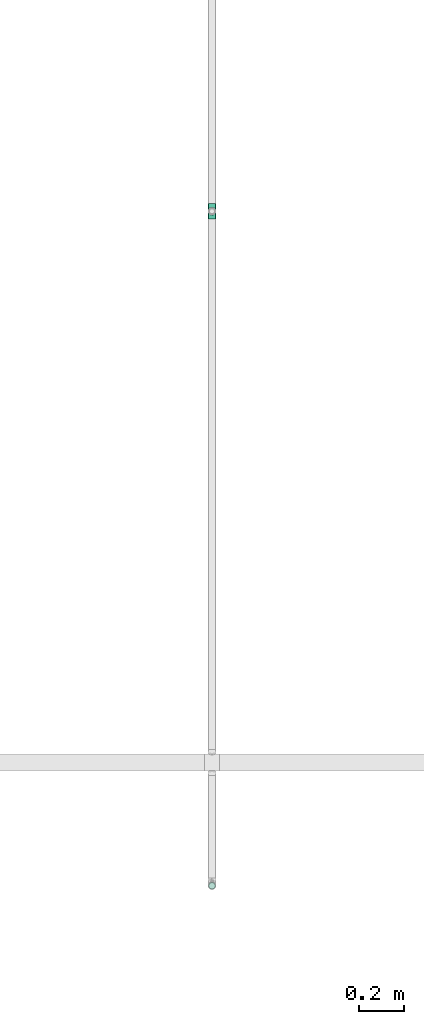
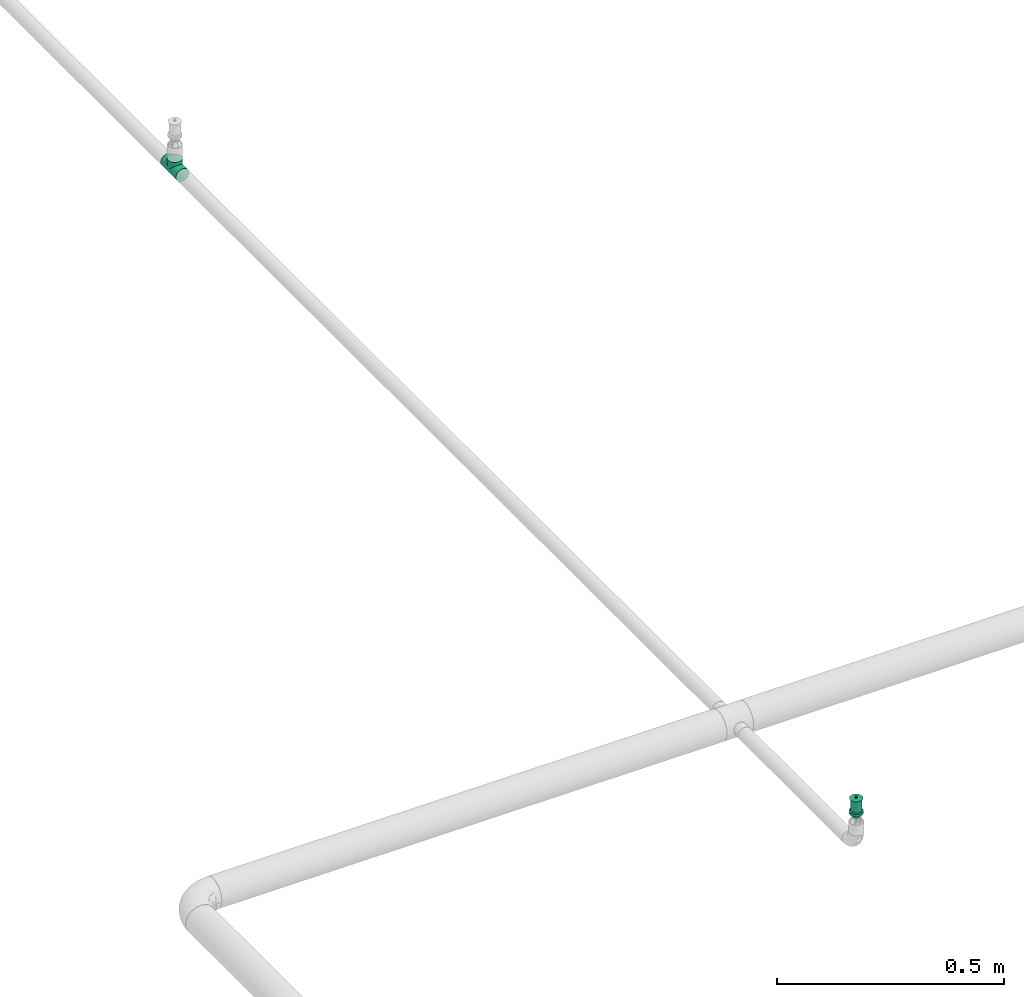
# One storey, part 3 of 31: 1 flow fitting, 1 flow terminal.
"""IFC2X3 building model written with IfcOpenShell, lengths in millimetres."""

from ifc_helpers import new_model, entity, si_unit, converted_unit, derived_unit, direction, frame, origin_with_axes, place, context, subcontext, project, spatial, open_shell, surface_model, source, transform, mapped, type_object, element, save


model = new_model("IFC2X3")

# Units and contexts
model_context = context("Model", 3, precision=0.01, world=frame((0.0, 4.29681676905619e-09, 0.0)), true_north=direction((4.01073788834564e-13, 1.0)))
plan_context = context("Plan", 3, precision=0.01, world=frame((0.0, 4.29681676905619e-09, 0.0)), true_north=direction((4.01073788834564e-13, 1.0)))
body_context = subcontext(model_context, "Body", "Model", "MODEL_VIEW")
ifc_project = project(units=[converted_unit("PLANEANGLEUNIT", "DEGREE", entity("IfcPositiveLengthMeasure", 0.0174532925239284), si_unit("PLANEANGLEUNIT", "RADIAN"), dimensions=[0, 0, 0, 0, 0, 0, 0]), si_unit("AREAUNIT", "SQUARE_METRE"), si_unit("LENGTHUNIT", "METRE", prefix="MILLI"), si_unit("MASSUNIT", "GRAM", prefix="KILO"), si_unit("POWERUNIT", "WATT"), si_unit("PRESSUREUNIT", "PASCAL", prefix="KILO"), si_unit("FORCEUNIT", "NEWTON", prefix="KILO"), si_unit("ELECTRICVOLTAGEUNIT", "VOLT"), si_unit("ELECTRICCURRENTUNIT", "AMPERE"), si_unit("THERMODYNAMICTEMPERATUREUNIT", "DEGREE_CELSIUS"), si_unit("TIMEUNIT", "SECOND"), si_unit("VOLUMEUNIT", "CUBIC_METRE"), derived_unit("LINEARVELOCITYUNIT", [(si_unit("LENGTHUNIT", "METRE"), 1), (si_unit("TIMEUNIT", "SECOND"), -1)]), derived_unit("VOLUMETRICFLOWRATEUNIT", [(si_unit("VOLUMEUNIT", "CUBIC_METRE"), 1), (si_unit("TIMEUNIT", "SECOND"), -1)]), derived_unit("THERMALTRANSMITTANCEUNIT", [(si_unit("POWERUNIT", "WATT"), 1), (si_unit("THERMODYNAMICTEMPERATUREUNIT", "KELVIN"), -1), (si_unit("AREAUNIT", "SQUARE_METRE"), -1)]), derived_unit("SOUNDPRESSUREUNIT", [(si_unit("PRESSUREUNIT", "PASCAL"), 1)])], contexts=[model_context, plan_context])

# Site, building, storey
site_placement = place(None, frame((0.0, -4.29681676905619e-09, 0.0), z_axis=(0.0, 0.0, 1.0), x_axis=(1.0, 0.0, 0.0)))
site = spatial("IfcSite", under=ifc_project, at=site_placement, CompositionType="ELEMENT")
building_placement = place(site_placement, frame((0.0, 4.29681676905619e-09, 0.0), z_axis=(0.0, 0.0, 1.0), x_axis=(1.0, 0.0, 0.0)))
building = spatial("IfcBuilding", under=site, at=building_placement, Name="mc-building", CompositionType="ELEMENT")
storey_placement = place(building_placement, frame((0.0, 0.0, 200300.0), z_axis=(0.0, 0.0, 1.0), x_axis=(1.0, 0.0, 0.0)))
storey = spatial("IfcBuildingStorey", under=building, at=storey_placement, Name="Nivå C", CompositionType="ELEMENT", Elevation=200300.0)

# Flow fitting
pipe_fitting_type = type_object("IfcPipeFittingType", Name="magi_pipe_fe_tee_centric_90_NOR", PredefinedType="JUNCTION")
shared_shape_1 = source(origin_with_axes(), body_context, "Body", "SurfaceModel", [
    surface_model("IfcShellBasedSurfaceModel", [(-33.8, 4.37404, -16.32415), (-33.8, 0.0, -16.9), (-33.8, 16.32415, -4.37404), (-33.8, 8.45, -14.63583), (-33.8, 11.9501, -11.9501), (-33.8, 14.63583, -8.45), (-33.8, -16.9, 0.0), (-33.8, -11.9501, -11.9501), (-33.8, -14.63583, -8.45), (-33.8, -8.45, -14.63583), (-33.8, -4.37404, -16.32415), (-33.8, -16.32415, -4.37404), (-33.8, 14.63583, 8.45), (-33.8, 16.32415, 4.37404), (-33.8, -8.45, 14.63583), (-33.8, 8.45, 14.63583), (-33.8, 11.9501, 11.9501), (-33.8, 4.37404, 16.32415), (-33.8, 0.0, 16.9), (-33.8, -11.9501, 11.9501), (-33.8, -14.63583, 8.45), (-33.8, -16.32415, 4.37404), (-33.8, -4.37404, 16.32415), (-33.8, 16.9, 0.0), (33.8, 4.37404, -16.32415), (33.8, -16.9, 0.0), (33.8, 0.0, -16.9), (33.8, 14.63583, -8.45), (33.8, 8.45, -14.63583), (33.8, 16.32415, -4.37404), (33.8, 11.9501, -11.9501), (33.8, -16.32415, 4.37404), (33.8, -8.45, -14.63583), (33.8, -4.37404, -16.32415), (33.8, -11.9501, -11.9501), (33.8, -14.63583, -8.45), (33.8, -16.32415, -4.37404), (33.8, 16.32415, 4.37404), (33.8, 8.45, 14.63583), (33.8, 14.63583, 8.45), (33.8, 11.9501, 11.9501), (33.8, -8.45, 14.63583), (33.8, 4.37404, 16.32415), (33.8, -14.63583, 8.45), (33.8, -11.9501, 11.9501), (33.8, 0.0, 16.9), (33.8, -4.37404, 16.32415), (33.8, 16.9, 0.0), (16.28698, -16.28698, 4.51047), (16.9, -16.9, 0.0), (14.62704, -14.62704, 8.4652), (9.47213, -9.47213, 13.99602), (12.26343, -12.26343, 11.62834), (-16.9, -16.9, 0.0), (-16.28698, -16.28698, 4.51047), (-14.62704, -14.62704, 8.4652), (-12.26343, -12.26343, 11.62834), (-9.47213, -9.47213, 13.99602), (-6.42894, -6.42894, 15.62942), (6.42894, -6.42894, 15.62942), (3.24522, -3.24522, 16.58549), (0.0, 0.0, 16.9), (-3.24522, -3.24522, 16.58549), (3.24522, -3.24522, -16.58549), (0.0, 0.0, -16.9), (-3.24522, -3.24522, -16.58549), (-6.42894, -6.42894, -15.62942), (6.42894, -6.42894, -15.62942), (9.47213, -9.47213, -13.99602), (12.26343, -12.26343, -11.62834), (14.62704, -14.62704, -8.4652), (16.28698, -16.28698, -4.51047), (-9.47213, -9.47213, -13.99602), (-12.26343, -12.26343, -11.62834), (-16.28698, -16.28698, -4.51047), (-14.62704, -14.62704, -8.4652), (4.37404, -25.35, -16.32415), (-16.9, -25.35, 0.0), (0.0, -25.35, -16.9), (14.63583, -25.35, -8.45), (8.45, -25.35, -14.63583), (16.32415, -25.35, -4.37404), (11.9501, -25.35, -11.9501), (-11.9501, -25.35, -11.9501), (-8.45, -25.35, -14.63583), (-4.37404, -25.35, -16.32415), (-14.63583, -25.35, -8.45), (-16.32415, -25.35, -4.37404), (16.9, -25.35, 0.0), (8.45, -25.35, 14.63583), (16.32415, -25.35, 4.37404), (14.63583, -25.35, 8.45), (-8.45, -25.35, 14.63583), (11.9501, -25.35, 11.9501), (4.37404, -25.35, 16.32415), (-16.32415, -25.35, 4.37404), (-11.9501, -25.35, 11.9501), (-14.63583, -25.35, 8.45), (0.0, -25.35, 16.9), (-4.37404, -25.35, 16.32415)], [open_shell([[[0, 1, 2]], [[3, 0, 4]], [[0, 2, 5]], [[4, 0, 5]], [[6, 2, 1]], [[7, 8, 9]], [[1, 10, 9]], [[11, 6, 8]], [[1, 9, 8]], [[1, 8, 6]], [[6, 12, 2]], [[12, 13, 2]], [[14, 12, 6]], [[12, 14, 15]], [[16, 12, 15]], [[17, 15, 18]], [[19, 14, 20]], [[21, 20, 14]], [[22, 18, 14]], [[14, 6, 21]], [[14, 18, 15]], [[23, 2, 13]], [[24, 25, 26]], [[27, 24, 28]], [[27, 29, 24]], [[27, 28, 30]], [[31, 25, 24]], [[26, 32, 33]], [[26, 34, 32]], [[35, 25, 36]], [[35, 34, 26]], [[25, 35, 26]], [[24, 29, 31]], [[29, 37, 38]], [[38, 37, 39]], [[38, 31, 29]], [[38, 39, 40]], [[41, 38, 42]], [[43, 41, 44]], [[41, 43, 31]], [[41, 45, 46]], [[41, 31, 38]], [[42, 45, 41]], [[29, 47, 37]], [[31, 43, 48]], [[25, 31, 49]], [[49, 31, 48]], [[43, 50, 48]], [[44, 41, 51]], [[50, 43, 52]], [[51, 52, 44]], [[52, 43, 44]], [[53, 54, 21]], [[53, 21, 6]], [[21, 54, 20]], [[54, 55, 20]], [[56, 57, 19]], [[19, 20, 56]], [[19, 57, 14]], [[56, 20, 55]], [[14, 57, 58]], [[51, 41, 59]], [[60, 45, 61]], [[59, 46, 60]], [[46, 59, 41]], [[60, 46, 45]], [[61, 45, 42]], [[39, 37, 13]], [[16, 38, 40]], [[12, 40, 39]], [[42, 38, 15]], [[23, 37, 47]], [[62, 61, 18]], [[62, 22, 58]], [[22, 62, 18]], [[58, 22, 14]], [[61, 17, 18]], [[42, 17, 61]], [[15, 17, 42]], [[15, 38, 16]], [[12, 16, 40]], [[13, 12, 39]], [[37, 23, 13]], [[5, 27, 30]], [[23, 47, 29]], [[30, 28, 3]], [[27, 2, 29]], [[26, 33, 63]], [[26, 64, 24]], [[64, 26, 63]], [[28, 24, 0]], [[64, 0, 24]], [[4, 30, 3]], [[2, 27, 5]], [[5, 30, 4]], [[2, 23, 29]], [[65, 66, 10]], [[1, 0, 64]], [[1, 65, 10]], [[66, 9, 10]], [[0, 3, 28]], [[1, 64, 65]], [[63, 33, 67]], [[32, 34, 68]], [[69, 68, 34]], [[35, 70, 69]], [[69, 34, 35]], [[32, 68, 67]], [[36, 25, 49]], [[36, 71, 35]], [[71, 36, 49]], [[35, 71, 70]], [[72, 9, 66]], [[72, 7, 9]], [[7, 72, 73]], [[7, 73, 8]], [[74, 53, 11]], [[75, 74, 8]], [[74, 11, 8]], [[11, 53, 6]], [[75, 8, 73]], [[32, 67, 33]], [[76, 77, 78]], [[79, 76, 80]], [[79, 81, 76]], [[79, 80, 82]], [[77, 76, 81]], [[78, 83, 84]], [[84, 85, 78]], [[86, 77, 87]], [[83, 78, 86]], [[77, 86, 78]], [[81, 88, 77]], [[89, 88, 90]], [[89, 90, 91]], [[92, 77, 89]], [[89, 91, 93]], [[92, 89, 94]], [[95, 96, 97]], [[96, 95, 92]], [[92, 98, 99]], [[95, 77, 92]], [[94, 98, 92]], [[89, 77, 88]], [[77, 95, 53]], [[54, 53, 95]], [[97, 96, 56]], [[96, 92, 57]], [[95, 97, 54]], [[58, 92, 99]], [[55, 54, 97]], [[56, 55, 97]], [[58, 57, 92]], [[98, 61, 62]], [[58, 99, 62]], [[56, 96, 57]], [[62, 99, 98]], [[94, 60, 98]], [[89, 59, 94]], [[91, 90, 48]], [[52, 93, 91]], [[93, 51, 89]], [[49, 90, 88]], [[59, 60, 94]], [[51, 59, 89]], [[49, 48, 90]], [[50, 52, 91]], [[48, 50, 91]], [[51, 93, 52]], [[98, 60, 61]], [[88, 81, 49]], [[71, 49, 81]], [[79, 82, 69]], [[82, 80, 68]], [[81, 79, 71]], [[67, 80, 76]], [[70, 71, 79]], [[69, 70, 79]], [[67, 68, 80]], [[78, 64, 63]], [[67, 76, 63]], [[69, 82, 68]], [[63, 76, 78]], [[85, 65, 78]], [[84, 66, 85]], [[86, 87, 74]], [[86, 73, 83]], [[72, 84, 83]], [[53, 87, 77]], [[66, 65, 85]], [[72, 66, 84]], [[53, 74, 87]], [[75, 73, 86]], [[74, 75, 86]], [[72, 83, 73]], [[78, 65, 64]]])]),
])
flow_fitting_placement = place(storey_placement, frame((602500.0, 400928.19532, 2900.0), z_axis=(-1.0, 0.0, 0.0), x_axis=(0.0, 1.0, 0.0)))
element("IfcFlowFitting", 1, at=flow_fitting_placement, inside=storey, type_object=pipe_fitting_type, Name="magi_pipe_fe_tee_centric_90_NOR", context=body_context, shape_type="MappedRepresentation", body=[
    mapped(shared_shape_1, transform((0.0, 0.0, 0.0), scale=1.0)),
])

# Flow terminal
fire_suppression_terminal_type = type_object("IfcFireSuppressionTerminalType", Name="68DGR-STD-STÅENDE", PredefinedType="NOTDEFINED")
shared_shape_2 = source(origin_with_axes(), body_context, "Body", "SurfaceModel", [
    surface_model("IfcShellBasedSurfaceModel", [(12.55704, 3.36465, 21.14766), (13.0, 0.0, 21.14766), (12.55704, -3.36465, 21.14766), (-12.55704, -3.36465, 21.14766), (-11.25833, -6.5, 21.14766), (-11.25833, -6.5, 51.0), (3.36465, -12.55704, 51.0), (3.36465, -12.55704, 21.14766), (6.5, -11.25833, 21.14766), (9.19239, -9.19239, 21.14766), (11.25833, -6.5, 21.14766), (9.19239, -9.19239, 51.0), (6.5, -11.25833, 51.0), (11.25833, -6.5, 51.0), (12.55704, -3.36465, 51.0), (13.0, 0.0, 51.0), (9.19239, 9.19239, 51.0), (11.25833, 6.5, 21.14766), (9.19239, 9.19239, 21.14766), (11.25833, 6.5, 51.0), (12.55704, 3.36465, 51.0), (6.5, 11.25833, 51.0), (6.5, 11.25833, 21.14766), (3.36465, 12.55704, 21.14766), (3.36465, 12.55704, 51.0), (-11.25833, 6.5, 51.0), (-11.25833, 6.5, 21.14766), (-12.55704, 3.36465, 21.14766), (0.0, -2.5, 51.0), (-2.5, 0.0, 51.0), (0.0, 2.5, 51.0), (2.5, 0.0, 51.0), (11.31371, 11.31371, 53.0), (-11.31371, 11.31371, 53.0), (-11.31371, -11.31371, 53.0), (11.31371, -11.31371, 53.0), (1.62635, 1.62635, 51.0), (2.16506, 1.25, 51.0), (1.99186, 1.15, 51.0), (-1.76777, 1.76777, 51.0), (-1.25, 2.16506, 51.0), (-1.62635, 1.62635, 51.0), (1.99186, -1.15, 51.0), (2.16506, -1.25, 51.0), (1.62635, -1.62635, 51.0), (-1.62635, -1.62635, 51.0), (-1.25, -2.16506, 51.0), (-1.76777, -1.76777, 51.0), (0.0, 7.3, 0.0), (1.94114, 7.24444, 0.0), (1.88938, 7.05126, 0.0), (5.16188, 5.16188, 0.0), (6.49519, 3.75, 0.0), (6.32199, 3.65, 0.0), (-5.3033, 5.3033, 0.0), (-3.75, 6.49519, 0.0), (-5.16188, 5.16188, 0.0), (6.32199, -3.65, 0.0), (6.49519, -3.75, 0.0), (5.16188, -5.16188, 0.0), (1.88938, -7.05126, 0.0), (1.94114, -7.24444, 0.0), (0.0, -7.3, 0.0), (-5.16188, -5.16188, 0.0), (-3.75, -6.49519, 0.0), (-5.3033, -5.3033, 0.0), (-3.36465, 12.55704, 51.0), (-6.5, 11.25833, 51.0), (0.0, 13.0, 51.0), (-9.19239, 9.19239, 51.0), (0.0, -13.0, 51.0), (-9.19239, -9.19239, 51.0), (-12.55704, -3.36465, 51.0), (-6.5, -11.25833, 51.0), (-3.36465, -12.55704, 51.0), (-7.5, 0.0, -0.1), (-7.24444, 1.94114, 0.1), (-7.24444, 1.94114, -0.1), (-6.49519, 3.75, 0.1), (-6.49519, 3.75, -0.1), (-3.75, 6.49519, -0.1), (-5.3033, 5.3033, -0.1), (-3.75, 6.49519, 0.1), (-5.3033, 5.3033, 0.1), (-1.94114, 7.24444, -0.1), (-1.94114, 7.24444, 0.1), (-7.5, 0.0, 0.1), (0.0, 7.5, 0.1), (0.0, 7.5, -0.1), (1.94114, 7.24444, 0.1), (1.94114, 7.24444, -0.1), (3.75, 6.49519, 0.1), (3.75, 6.49519, -0.1), (6.49519, 3.75, -0.1), (5.3033, 5.3033, -0.1), (6.49519, 3.75, 0.1), (5.3033, 5.3033, 0.1), (7.24444, 1.94114, -0.1), (7.24444, 1.94114, 0.1), (7.5, 0.0, 0.1), (7.5, 0.0, -0.1), (-7.24444, -1.94114, 0.1), (7.24444, -1.94114, 0.1), (5.3033, -5.3033, 0.1), (6.49519, -3.75, 0.1), (-6.49519, -3.75, 0.1), (0.0, -7.5, 0.1), (1.94114, -7.24444, 0.1), (3.75, -6.49519, 0.1), (-3.75, -6.49519, 0.1), (-1.94114, -7.24444, 0.1), (-5.3033, -5.3033, 0.1), (0.0, -7.5, -0.1), (-6.49519, -3.75, -0.1), (1.94114, -7.24444, -0.1), (3.75, -6.49519, -0.1), (5.3033, -5.3033, -0.1), (7.24444, -1.94114, -0.1), (6.49519, -3.75, -0.1), (-3.75, -6.49519, -0.1), (-5.3033, -5.3033, -0.1), (-1.94114, -7.24444, -0.1), (-7.24444, -1.94114, -0.1), (16.0, 0.0, 53.0), (0.0, -16.0, 53.0), (-16.0, 0.0, 53.0), (0.0, 16.0, 53.0), (0.64705, 2.41481, 57.0), (0.0, 2.5, 57.0), (1.25, 2.16506, 57.0), (-2.5, 0.0, 57.0), (1.76777, 1.76777, 57.0), (2.41481, 0.64705, 57.0), (2.16506, 1.25, 57.0), (-0.64705, 2.41481, 57.0), (-1.25, 2.16506, 57.0), (-1.76777, 1.76777, 57.0), (-2.16506, 1.25, 57.0), (-2.41481, 0.64705, 57.0), (2.5, 0.0, 57.0), (1.76777, -1.76777, 57.0), (2.16506, -1.25, 57.0), (2.41481, -0.64705, 57.0), (-2.41481, -0.64705, 57.0), (0.64705, -2.41481, 57.0), (1.25, -2.16506, 57.0), (0.0, -2.5, 57.0), (-1.76777, -1.76777, 57.0), (-2.16506, -1.25, 57.0), (-1.25, -2.16506, 57.0), (-0.64705, -2.41481, 57.0), (1.15, -1.99186, 51.0), (1.76777, -1.76777, 51.0), (1.25, -2.16506, 51.0), (0.59528, -2.22163, 51.0), (0.0, -2.3, 51.0), (0.64705, -2.41481, 51.0), (2.22163, -0.59528, 51.0), (2.3, 0.0, 51.0), (2.41481, -0.64705, 51.0), (-0.64705, -2.41481, 51.0), (-0.59528, -2.22163, 51.0), (-1.15, -1.99186, 51.0), (-2.16506, -1.25, 51.0), (-1.99186, -1.15, 51.0), (-2.22163, -0.59528, 51.0), (-2.3, 0.0, 51.0), (-2.41481, -0.64705, 51.0), (2.22163, 0.59528, 51.0), (2.41481, 0.64705, 51.0), (1.76777, 1.76777, 51.0), (1.15, 1.99186, 51.0), (1.25, 2.16506, 51.0), (0.59528, 2.22163, 51.0), (0.0, 2.3, 51.0), (0.64705, 2.41481, 51.0), (-1.99186, 1.15, 51.0), (-2.16506, 1.25, 51.0), (-2.41481, 0.64705, 51.0), (-2.22163, 0.59528, 51.0), (-0.64705, 2.41481, 51.0), (-0.59528, 2.22163, 51.0), (-1.15, 1.99186, 51.0), (-2.22163, 0.59528, 56.8), (-1.99186, 1.15, 56.8), (-1.15, 1.99186, 56.8), (-1.62635, 1.62635, 56.8), (-0.59528, 2.22163, 56.8), (-2.3, 0.0, 56.8), (0.0, 2.3, 56.8), (0.59528, 2.22163, 56.8), (1.15, 1.99186, 56.8), (1.99186, 1.15, 56.8), (1.62635, 1.62635, 56.8), (2.22163, 0.59528, 56.8), (2.3, 0.0, 56.8), (2.22163, -0.59528, 56.8), (1.99186, -1.15, 56.8), (1.62635, -1.62635, 56.8), (1.15, -1.99186, 56.8), (0.59528, -2.22163, 56.8), (0.0, -2.3, 56.8), (-1.99186, -1.15, 56.8), (-2.22163, -0.59528, 56.8), (-1.62635, -1.62635, 56.8), (-0.59528, -2.22163, 56.8), (-1.15, -1.99186, 56.8), (8.0, -13.85641, 13.0), (4.1411, -15.45481, 13.0), (0.0, -16.0, 13.0), (-4.1411, -15.45481, 13.0), (15.45481, -4.1411, 13.0), (13.85641, -8.0, 13.0), (11.31371, -11.31371, 13.0), (-16.0, 0.0, 13.0), (-8.0, -13.85641, 13.0), (-11.31371, -11.31371, 13.0), (-13.85641, -8.0, 13.0), (-15.45481, -4.1411, 13.0), (15.45481, 4.1411, 13.0), (4.1411, 15.45481, 13.0), (13.85641, 8.0, 13.0), (8.0, 13.85641, 13.0), (11.31371, 11.31371, 13.0), (-15.45481, 4.1411, 13.0), (-11.31371, 11.31371, 13.0), (-8.0, 13.85641, 13.0), (-13.85641, 8.0, 13.0), (-4.1411, 15.45481, 13.0), (0.0, 16.0, 13.0), (16.0, 0.0, 13.0), (7.05126, 1.88938, 12.8), (1.88938, 7.05126, 12.8), (3.65, 6.32199, 12.8), (6.32199, 3.65, 12.8), (5.16188, 5.16188, 12.8), (7.3, 0.0, 12.8), (0.0, 7.3, 12.8), (-3.65, 6.32199, 12.8), (-1.88938, 7.05126, 12.8), (-5.16188, 5.16188, 12.8), (-7.05126, 1.88938, 12.8), (-6.32199, 3.65, 12.8), (7.05126, -1.88938, 12.8), (0.0, -7.3, 12.8), (6.32199, -3.65, 12.8), (3.65, -6.32199, 12.8), (5.16188, -5.16188, 12.8), (1.88938, -7.05126, 12.8), (-7.3, 0.0, 12.8), (-6.32199, -3.65, 12.8), (-7.05126, -1.88938, 12.8), (-1.88938, -7.05126, 12.8), (-5.16188, -5.16188, 12.8), (-3.65, -6.32199, 12.8), (-7.05126, 1.88938, 0.0), (-7.3, 0.0, 0.0), (-6.32199, 3.65, 0.0), (-3.65, 6.32199, 0.0), (-1.88938, 7.05126, 0.0), (3.65, 6.32199, 0.0), (7.05126, 1.88938, 0.0), (7.3, 0.0, 0.0), (3.75, 6.49519, 13.0), (1.94114, 7.24444, 13.0), (7.5, 0.0, 13.0), (5.3033, 5.3033, 13.0), (7.24444, 1.94114, 13.0), (6.49519, 3.75, 13.0), (-5.3033, 5.3033, 13.0), (-7.24444, -1.94114, 13.0), (-1.94114, 7.24444, 13.0), (-3.75, 6.49519, 13.0), (0.0, 7.5, 13.0), (-6.49519, 3.75, 13.0), (-7.24444, 1.94114, 13.0), (7.24444, -1.94114, 13.0), (5.3033, -5.3033, 13.0), (6.49519, -3.75, 13.0), (-6.49519, -3.75, 13.0), (0.0, -7.5, 13.0), (1.94114, -7.24444, 13.0), (3.75, -6.49519, 13.0), (-7.5, 0.0, 13.0), (-3.75, -6.49519, 13.0), (-1.94114, -7.24444, 13.0), (-5.3033, -5.3033, 13.0), (3.65, -6.32199, 0.0), (5.3033, -5.3033, 0.0), (3.75, -6.49519, 0.0), (0.0, -7.5, 0.0), (7.05126, -1.88938, 0.0), (7.24444, -1.94114, 0.0), (7.5, 0.0, 0.0), (-1.94114, -7.24444, 0.0), (-1.88938, -7.05126, 0.0), (-3.65, -6.32199, 0.0), (-6.49519, -3.75, 0.0), (-6.32199, -3.65, 0.0), (-7.05126, -1.88938, 0.0), (-7.24444, -1.94114, 0.0), (-7.5, 0.0, 0.0), (7.24444, 1.94114, 0.0), (5.3033, 5.3033, 0.0), (3.75, 6.49519, 0.0), (0.0, 7.5, 0.0), (-6.49519, 3.75, 0.0), (-7.24444, 1.94114, 0.0), (-1.94114, 7.24444, 0.0), (-12.55704, 3.36465, 51.0), (-13.0, 0.0, 51.0), (0.0, -13.0, 21.14766), (-3.36465, -12.55704, 21.14766), (-6.5, -11.25833, 21.14766), (-9.19239, -9.19239, 21.14766), (-13.0, 0.0, 21.14766), (-9.19239, 9.19239, 21.14766), (-6.5, 11.25833, 21.14766), (-3.36465, 12.55704, 21.14766), (0.0, 13.0, 21.14766), (11.31371, 11.31371, 19.0), (8.0, 13.85641, 19.0), (4.1411, 15.45481, 19.0), (-8.0, 13.85641, 19.0), (16.0, 0.0, 19.0), (15.45481, 4.1411, 19.0), (13.85641, 8.0, 19.0), (-4.1411, 15.45481, 19.0), (0.0, 16.0, 19.0), (-11.31371, 11.31371, 19.0), (-13.85641, 8.0, 19.0), (-15.45481, 4.1411, 19.0), (15.45481, -4.1411, 19.0), (11.31371, -11.31371, 19.0), (13.85641, -8.0, 19.0), (-16.0, 0.0, 19.0), (0.0, -16.0, 19.0), (4.1411, -15.45481, 19.0), (8.0, -13.85641, 19.0), (-13.85641, -8.0, 19.0), (-11.31371, -11.31371, 19.0), (-15.45481, -4.1411, 19.0), (-8.0, -13.85641, 19.0), (-4.1411, -15.45481, 19.0)], [open_shell([[[0, 1, 2]], [[3, 4, 5]], [[6, 7, 8]], [[9, 10, 11]], [[9, 11, 12]], [[10, 13, 11]], [[14, 13, 2]], [[1, 15, 14]], [[16, 17, 18]], [[0, 19, 20]], [[20, 15, 1]], [[21, 16, 18]], [[22, 23, 24]], [[16, 19, 17]], [[25, 26, 27]], [[28, 29, 30]], [[30, 31, 28]], [[31, 30, 32]], [[33, 30, 29]], [[29, 28, 34]], [[35, 28, 31]], [[36, 37, 38]], [[39, 40, 41]], [[42, 43, 44]], [[45, 46, 47]], [[48, 49, 50]], [[51, 52, 53]], [[54, 55, 56]], [[57, 58, 59]], [[60, 61, 62]], [[63, 64, 65]], [[66, 67, 68]], [[67, 24, 68]], [[69, 25, 67]], [[15, 20, 14]], [[70, 6, 12]], [[5, 71, 72]], [[73, 74, 71]], [[72, 71, 74]], [[75, 76, 77]], [[77, 78, 79]], [[80, 81, 82]], [[83, 81, 79]], [[84, 80, 85]], [[76, 78, 77]], [[75, 86, 76]], [[80, 82, 85]], [[82, 81, 83]], [[79, 78, 83]], [[84, 85, 87]], [[87, 88, 84]], [[88, 89, 90]], [[90, 91, 92]], [[93, 94, 95]], [[96, 94, 92]], [[97, 93, 98]], [[91, 96, 92]], [[90, 89, 91]], [[97, 98, 99]], [[98, 93, 95]], [[94, 96, 95]], [[97, 99, 100]], [[87, 89, 88]], [[91, 89, 99]], [[96, 91, 98]], [[91, 99, 98]], [[95, 96, 98]], [[89, 83, 101]], [[85, 82, 87]], [[83, 87, 82]], [[78, 76, 83]], [[89, 87, 83]], [[76, 101, 83]], [[102, 99, 89]], [[103, 104, 102]], [[89, 105, 103]], [[103, 106, 107]], [[108, 103, 107]], [[106, 103, 105]], [[89, 101, 105]], [[101, 76, 86]], [[109, 110, 111]], [[105, 111, 110]], [[106, 105, 110]], [[103, 102, 89]], [[112, 113, 114]], [[115, 114, 116]], [[117, 118, 116]], [[113, 116, 114]], [[116, 113, 117]], [[119, 120, 121]], [[113, 121, 120]], [[121, 113, 112]], [[113, 122, 117]], [[75, 77, 122]], [[100, 117, 122]], [[100, 81, 97]], [[93, 97, 90]], [[90, 92, 94]], [[93, 90, 94]], [[90, 97, 81]], [[79, 81, 77]], [[77, 81, 122]], [[84, 88, 80]], [[81, 80, 88]], [[81, 88, 90]], [[100, 122, 81]], [[100, 102, 117]], [[117, 104, 118]], [[115, 116, 108]], [[103, 116, 118]], [[114, 115, 107]], [[102, 104, 117]], [[100, 99, 102]], [[115, 108, 107]], [[108, 116, 103]], [[118, 104, 103]], [[114, 107, 106]], [[106, 112, 114]], [[112, 110, 121]], [[121, 109, 119]], [[113, 120, 105]], [[111, 120, 119]], [[122, 113, 101]], [[109, 111, 119]], [[121, 110, 109]], [[122, 101, 86]], [[101, 113, 105]], [[120, 111, 105]], [[122, 86, 75]], [[106, 110, 112]], [[31, 123, 35]], [[35, 124, 28]], [[124, 34, 28]], [[29, 34, 125]], [[33, 32, 126]], [[33, 125, 124]], [[124, 32, 33]], [[124, 35, 123]], [[124, 125, 34]], [[123, 32, 124]], [[29, 125, 33]], [[33, 126, 30]], [[126, 32, 30]], [[31, 32, 123]], [[127, 128, 129]], [[129, 130, 131]], [[132, 131, 130]], [[133, 131, 132]], [[130, 129, 128]], [[134, 135, 128]], [[136, 128, 135]], [[137, 138, 136]], [[128, 136, 130]], [[138, 130, 136]], [[139, 132, 130]], [[140, 141, 142]], [[143, 140, 139]], [[144, 140, 143]], [[145, 140, 144]], [[146, 144, 147]], [[139, 130, 143]], [[143, 148, 144]], [[149, 150, 147]], [[144, 148, 147]], [[146, 147, 150]], [[140, 142, 139]], [[151, 152, 153]], [[154, 151, 153]], [[155, 154, 156]], [[153, 156, 154]], [[28, 155, 156]], [[44, 152, 151]], [[157, 158, 159]], [[31, 159, 158]], [[43, 157, 159]], [[152, 44, 43]], [[157, 43, 42]], [[160, 161, 28]], [[161, 155, 28]], [[162, 161, 160]], [[160, 46, 162]], [[162, 46, 45]], [[47, 163, 164]], [[165, 164, 163]], [[45, 47, 164]], [[166, 165, 167]], [[163, 167, 165]], [[29, 166, 167]], [[168, 169, 31]], [[38, 169, 168]], [[169, 38, 37]], [[170, 37, 36]], [[171, 172, 170]], [[173, 172, 171]], [[174, 175, 173]], [[172, 173, 175]], [[30, 175, 174]], [[170, 36, 171]], [[39, 176, 177]], [[41, 176, 39]], [[178, 177, 176]], [[178, 179, 29]], [[176, 179, 178]], [[179, 166, 29]], [[180, 30, 181]], [[182, 180, 181]], [[182, 41, 40]], [[180, 182, 40]], [[181, 30, 174]], [[31, 158, 168]], [[29, 138, 178]], [[178, 137, 177]], [[40, 39, 135]], [[136, 39, 177]], [[180, 40, 134]], [[138, 137, 178]], [[29, 130, 138]], [[40, 135, 134]], [[135, 39, 136]], [[177, 137, 136]], [[180, 134, 128]], [[128, 30, 180]], [[30, 127, 175]], [[175, 129, 172]], [[37, 170, 133]], [[131, 170, 172]], [[169, 37, 132]], [[129, 131, 172]], [[175, 127, 129]], [[169, 132, 139]], [[132, 37, 133]], [[170, 131, 133]], [[169, 139, 31]], [[128, 127, 30]], [[179, 183, 166]], [[176, 184, 179]], [[185, 41, 182]], [[176, 41, 186]], [[187, 182, 181]], [[179, 184, 183]], [[183, 188, 166]], [[187, 185, 182]], [[186, 41, 185]], [[186, 184, 176]], [[189, 187, 181]], [[181, 174, 189]], [[173, 190, 174]], [[171, 191, 173]], [[192, 36, 38]], [[171, 36, 193]], [[194, 38, 168]], [[171, 193, 191]], [[191, 190, 173]], [[195, 194, 168]], [[192, 38, 194]], [[192, 193, 36]], [[158, 195, 168]], [[174, 190, 189]], [[31, 142, 159]], [[159, 141, 43]], [[153, 152, 145]], [[140, 152, 43]], [[156, 153, 144]], [[142, 141, 159]], [[31, 139, 142]], [[153, 145, 144]], [[145, 152, 140]], [[43, 141, 140]], [[156, 144, 146]], [[146, 28, 156]], [[28, 150, 160]], [[160, 149, 46]], [[163, 47, 148]], [[147, 47, 46]], [[167, 163, 143]], [[149, 147, 46]], [[160, 150, 149]], [[167, 143, 130]], [[143, 163, 148]], [[47, 147, 148]], [[167, 130, 29]], [[146, 150, 28]], [[190, 191, 193]], [[190, 193, 195]], [[194, 195, 193]], [[194, 193, 192]], [[190, 195, 186]], [[189, 185, 187]], [[185, 189, 186]], [[186, 183, 184]], [[186, 189, 190]], [[186, 196, 183]], [[186, 195, 196]], [[196, 197, 198]], [[196, 198, 199]], [[199, 200, 201]], [[199, 201, 196]], [[196, 201, 202]], [[188, 202, 203]], [[183, 202, 188]], [[204, 205, 206]], [[205, 204, 202]], [[201, 205, 202]], [[202, 183, 196]], [[157, 196, 158]], [[42, 197, 157]], [[199, 44, 151]], [[42, 44, 198]], [[200, 151, 154]], [[157, 197, 196]], [[196, 195, 158]], [[200, 199, 151]], [[198, 44, 199]], [[198, 197, 42]], [[201, 200, 154]], [[154, 155, 201]], [[161, 205, 155]], [[162, 206, 161]], [[202, 45, 164]], [[162, 45, 204]], [[203, 164, 165]], [[162, 204, 206]], [[206, 205, 161]], [[188, 203, 165]], [[202, 164, 203]], [[202, 204, 45]], [[166, 188, 165]], [[155, 205, 201]], [[207, 208, 209]], [[207, 209, 210]], [[211, 212, 213]], [[213, 207, 214]], [[211, 213, 214]], [[215, 216, 210]], [[217, 210, 216]], [[217, 218, 210]], [[218, 207, 210]], [[218, 214, 207]], [[214, 219, 211]], [[220, 219, 214]], [[221, 219, 220]], [[220, 222, 223]], [[221, 220, 223]], [[214, 224, 220]], [[225, 226, 227]], [[224, 227, 226]], [[228, 229, 226]], [[220, 224, 226]], [[226, 229, 220]], [[219, 230, 211]], [[231, 232, 233]], [[234, 233, 235]], [[231, 236, 232]], [[231, 233, 234]], [[232, 236, 237]], [[237, 238, 239]], [[238, 237, 240]], [[240, 241, 242]], [[240, 237, 236]], [[236, 241, 240]], [[236, 243, 241]], [[244, 243, 245]], [[246, 245, 247]], [[246, 248, 244]], [[246, 244, 245]], [[243, 244, 249]], [[249, 250, 251]], [[250, 249, 252]], [[253, 252, 254]], [[252, 253, 250]], [[249, 244, 252]], [[243, 249, 241]], [[255, 241, 256]], [[257, 242, 255]], [[238, 56, 258]], [[257, 56, 240]], [[239, 258, 259]], [[255, 242, 241]], [[241, 249, 256]], [[239, 238, 258]], [[240, 56, 238]], [[240, 242, 257]], [[237, 239, 259]], [[259, 48, 237]], [[50, 232, 48]], [[260, 233, 50]], [[234, 51, 53]], [[260, 51, 235]], [[231, 53, 261]], [[260, 235, 233]], [[233, 232, 50]], [[236, 231, 261]], [[234, 53, 231]], [[234, 235, 51]], [[262, 236, 261]], [[48, 232, 237]], [[263, 264, 265]], [[266, 263, 267]], [[263, 265, 267]], [[268, 266, 267]], [[264, 269, 270]], [[271, 272, 273]], [[269, 273, 272]], [[274, 275, 269]], [[264, 273, 269]], [[275, 270, 269]], [[276, 265, 264]], [[277, 278, 276]], [[264, 279, 277]], [[277, 280, 281]], [[282, 277, 281]], [[280, 277, 279]], [[264, 270, 279]], [[270, 275, 283]], [[284, 285, 286]], [[279, 286, 285]], [[280, 279, 285]], [[277, 276, 264]], [[287, 288, 289]], [[60, 287, 289]], [[290, 62, 61]], [[289, 61, 60]], [[59, 288, 287]], [[291, 262, 292]], [[293, 292, 262]], [[58, 291, 292]], [[288, 59, 58]], [[291, 58, 57]], [[294, 295, 290]], [[296, 295, 294]], [[294, 64, 296]], [[64, 63, 296]], [[295, 62, 290]], [[65, 297, 298]], [[299, 298, 297]], [[63, 65, 298]], [[256, 299, 300]], [[297, 300, 299]], [[301, 256, 300]], [[261, 302, 293]], [[53, 302, 261]], [[302, 53, 52]], [[303, 52, 51]], [[260, 304, 303]], [[50, 304, 260]], [[304, 50, 49]], [[305, 49, 48]], [[303, 51, 260]], [[54, 257, 306]], [[56, 257, 54]], [[307, 306, 257]], [[307, 255, 301]], [[257, 255, 307]], [[255, 256, 301]], [[308, 305, 259]], [[258, 308, 259]], [[55, 258, 56]], [[308, 258, 55]], [[259, 305, 48]], [[293, 262, 261]], [[301, 275, 307]], [[307, 274, 306]], [[55, 54, 272]], [[269, 54, 306]], [[308, 55, 271]], [[275, 274, 307]], [[301, 283, 275]], [[55, 272, 271]], [[272, 54, 269]], [[306, 274, 269]], [[308, 271, 273]], [[273, 305, 308]], [[305, 264, 49]], [[49, 263, 304]], [[52, 303, 268]], [[266, 303, 304]], [[302, 52, 267]], [[263, 266, 304]], [[49, 264, 263]], [[302, 267, 265]], [[267, 52, 268]], [[303, 266, 268]], [[302, 265, 293]], [[273, 264, 305]], [[293, 276, 292]], [[292, 278, 58]], [[289, 288, 282]], [[277, 288, 58]], [[61, 289, 281]], [[276, 278, 292]], [[293, 265, 276]], [[289, 282, 281]], [[282, 288, 277]], [[58, 278, 277]], [[61, 281, 280]], [[280, 290, 61]], [[290, 285, 294]], [[294, 284, 64]], [[297, 65, 279]], [[286, 65, 64]], [[300, 297, 270]], [[284, 286, 64]], [[294, 285, 284]], [[300, 270, 283]], [[270, 297, 279]], [[65, 286, 279]], [[300, 283, 301]], [[280, 285, 290]], [[291, 243, 262]], [[57, 245, 291]], [[246, 59, 287]], [[57, 59, 247]], [[248, 287, 60]], [[291, 245, 243]], [[243, 236, 262]], [[248, 246, 287]], [[247, 59, 246]], [[247, 245, 57]], [[244, 248, 60]], [[60, 62, 244]], [[295, 252, 62]], [[296, 254, 295]], [[250, 63, 298]], [[296, 63, 253]], [[251, 298, 299]], [[296, 253, 254]], [[254, 252, 295]], [[249, 251, 299]], [[250, 298, 251]], [[250, 253, 63]], [[256, 249, 299]], [[62, 252, 244]], [[16, 21, 24]], [[20, 16, 24]], [[24, 67, 72]], [[19, 16, 20]], [[24, 72, 20]], [[25, 72, 67]], [[309, 310, 25]], [[11, 13, 14]], [[72, 11, 20]], [[74, 12, 11]], [[12, 74, 70]], [[72, 25, 310]], [[72, 74, 11]], [[11, 14, 20]], [[8, 7, 311]], [[8, 311, 312]], [[2, 10, 9]], [[3, 9, 8]], [[3, 26, 9]], [[313, 314, 312]], [[3, 312, 314]], [[4, 3, 314]], [[3, 8, 312]], [[315, 26, 3]], [[2, 9, 26]], [[0, 2, 26]], [[17, 0, 18]], [[23, 22, 18]], [[0, 23, 18]], [[23, 0, 26]], [[316, 317, 26]], [[26, 315, 27]], [[318, 319, 317]], [[23, 26, 317]], [[23, 317, 319]], [[316, 26, 25]], [[318, 317, 67]], [[69, 317, 316]], [[319, 318, 66]], [[310, 309, 315]], [[27, 315, 309]], [[25, 27, 309]], [[25, 69, 316]], [[317, 69, 67]], [[67, 66, 318]], [[66, 68, 319]], [[22, 21, 18]], [[0, 17, 19]], [[1, 0, 20]], [[68, 24, 23]], [[24, 21, 22]], [[319, 68, 23]], [[1, 14, 2]], [[2, 13, 10]], [[6, 311, 7]], [[6, 8, 12]], [[12, 8, 9]], [[6, 70, 311]], [[313, 312, 74]], [[313, 73, 314]], [[71, 4, 314]], [[315, 3, 72]], [[70, 74, 312]], [[74, 73, 313]], [[73, 71, 314]], [[71, 5, 4]], [[3, 5, 72]], [[72, 310, 315]], [[311, 70, 312]], [[320, 321, 322]], [[320, 322, 323]], [[320, 324, 325]], [[326, 320, 325]], [[324, 320, 323]], [[327, 323, 328]], [[323, 322, 328]], [[329, 330, 323]], [[331, 323, 330]], [[323, 331, 324]], [[331, 332, 324]], [[333, 334, 332]], [[335, 333, 331]], [[336, 337, 338]], [[335, 338, 333]], [[338, 335, 336]], [[339, 340, 341]], [[335, 341, 340]], [[342, 343, 340]], [[335, 340, 343]], [[343, 336, 335]], [[332, 331, 333]], [[214, 331, 224]], [[224, 330, 227]], [[226, 225, 323]], [[329, 225, 227]], [[228, 226, 327]], [[331, 330, 224]], [[214, 335, 331]], [[226, 323, 327]], [[323, 225, 329]], [[227, 330, 329]], [[228, 327, 328]], [[328, 229, 228]], [[229, 322, 220]], [[220, 321, 222]], [[221, 223, 326]], [[320, 223, 222]], [[219, 221, 325]], [[321, 320, 222]], [[220, 322, 321]], [[219, 325, 324]], [[325, 221, 326]], [[223, 320, 326]], [[219, 324, 230]], [[328, 322, 229]], [[230, 332, 211]], [[211, 334, 212]], [[207, 213, 338]], [[333, 213, 212]], [[208, 207, 337]], [[332, 334, 211]], [[230, 324, 332]], [[207, 338, 337]], [[338, 213, 333]], [[212, 334, 333]], [[208, 337, 336]], [[336, 209, 208]], [[209, 343, 210]], [[210, 342, 215]], [[217, 216, 339]], [[340, 216, 215]], [[218, 217, 341]], [[342, 340, 215]], [[210, 343, 342]], [[218, 341, 335]], [[341, 217, 339]], [[216, 340, 339]], [[218, 335, 214]], [[336, 343, 209]]])]),
])
flow_terminal_placement = place(storey_placement, frame((602500.0, 397923.19532, 2972.0), z_axis=(0.0, 0.0, 1.0), x_axis=(-1.0, 0.0, 0.0)))
element("IfcFlowTerminal", 2, at=flow_terminal_placement, inside=storey, type_object=fire_suppression_terminal_type, Name="68DGR-STD-STÅENDE", context=body_context, shape_type="MappedRepresentation", body=[
    mapped(shared_shape_2, transform((0.0, 0.0, 0.0), scale=1.0)),
])

save(model, "model.ifc")
